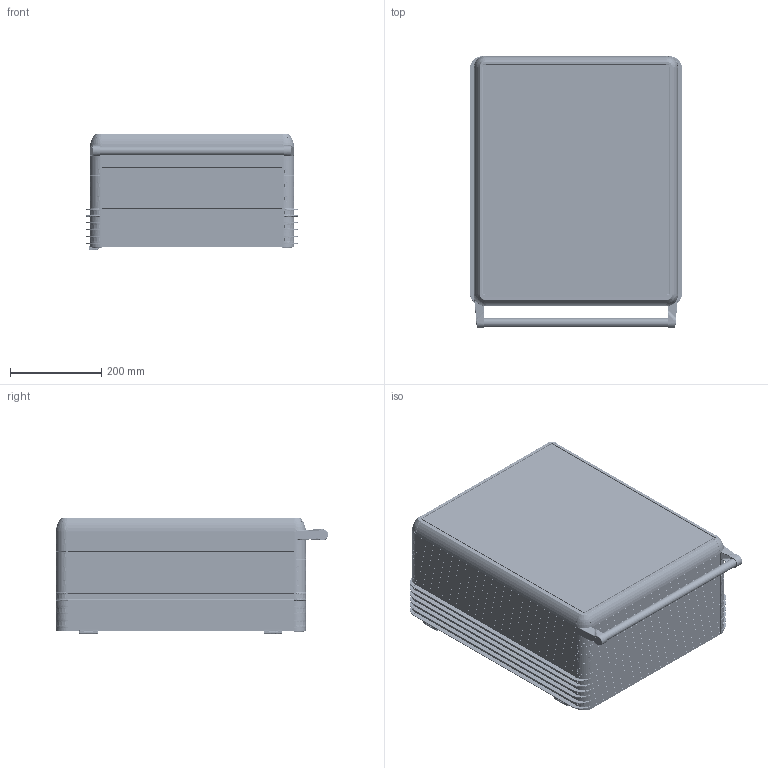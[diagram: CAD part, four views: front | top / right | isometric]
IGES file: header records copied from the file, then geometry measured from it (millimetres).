
Start section: SolidWorks IGES file using analytic representation for surfaces
Global section: file name: D:\PANO_STEP\1591\1591 datalar\1591-0110.IGS; native system: SolidWorks 2022; preprocessor: SolidWorks 2022; author: User; date: 220425.123554; units: millimetre
Bounding box: 465.16 x 595.81 x 255.79 mm (x, y, z)
Surface area: 3250126.3 mm2 (no closed solid volume)
Topology: 0 solids, 0 shells, 16287 faces, 130341 edges, 129947 vertices
Faces by surface type: bspline 10729, revolution 5558
